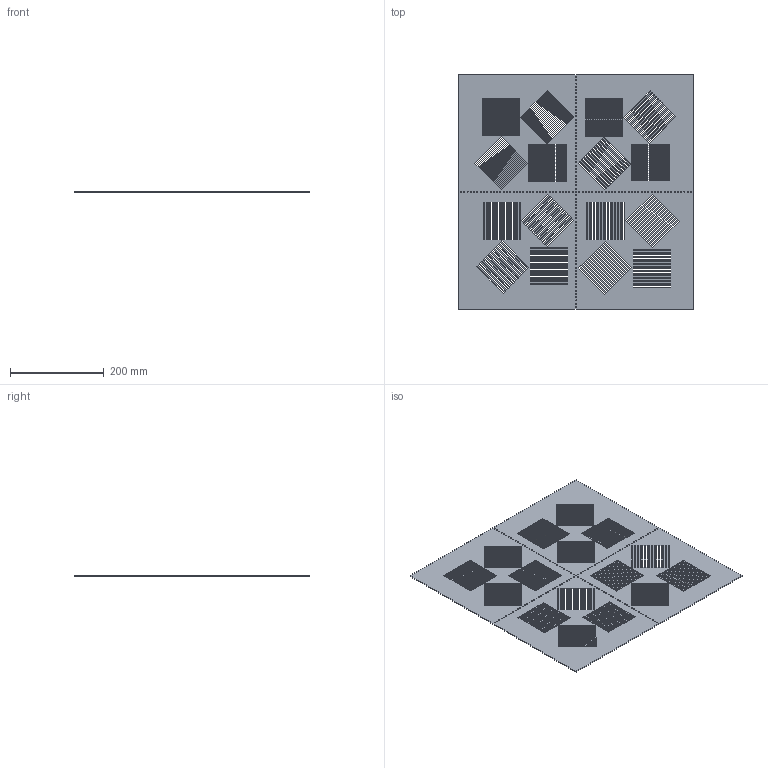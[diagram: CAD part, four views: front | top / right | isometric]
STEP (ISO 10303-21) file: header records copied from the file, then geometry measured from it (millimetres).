
FILE_DESCRIPTION(('STEP AP203'), '1');
FILE_NAME('义耱-钺牝.stp', '2012-01-27T12:29:06', ('UNSPECIFIED'), ('UNSPECIFIED'), 'ASCON STEP Converter 1.0', 'Kompas 3D', '');
FILE_SCHEMA(('CONFIG_CONTROL_DESIGN'));
Length unit declared in the file: millimetre
Products named in the file (1): 1
Bounding box: 500 x 500 x 1.5 mm (x, y, z)
Volume: 296335.6 mm3; surface area: 475313 mm2
Topology: 1 solids, 1 shells, 1520 faces, 4554 edges, 3036 vertices
Faces by surface type: plane 1238, cylinder 282
Entity records: 52560 total; most frequent: CARTESIAN_POINT 9111, ORIENTED_EDGE 9108, DIRECTION 8160, EDGE_CURVE 4554, LINE 3990, VECTOR 3990, VERTEX_POINT 3036, EDGE_LOOP 2418
